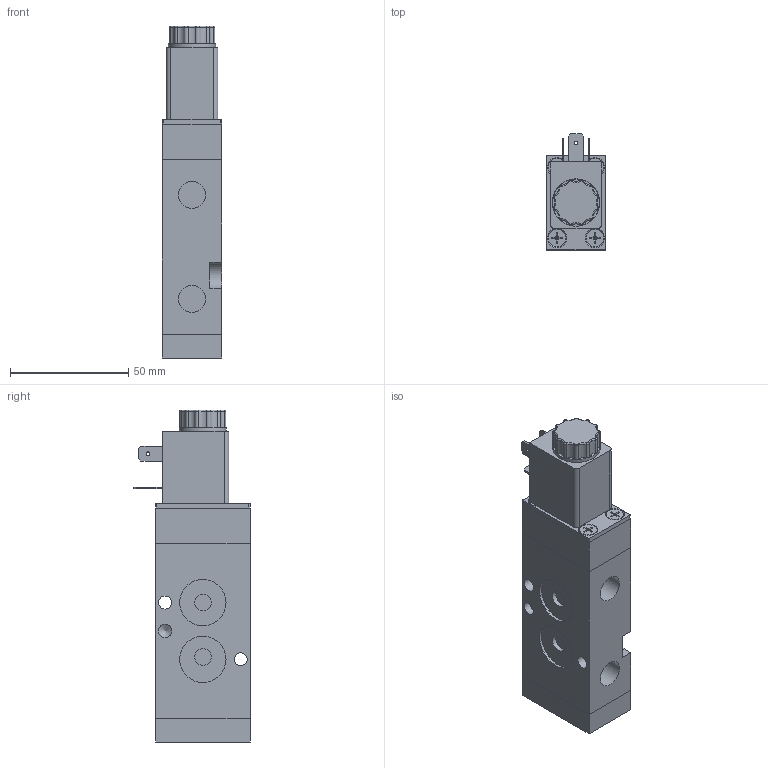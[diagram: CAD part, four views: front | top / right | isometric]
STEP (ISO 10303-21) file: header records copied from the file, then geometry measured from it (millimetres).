
FILE_DESCRIPTION (( 'STEP AP214' ), '1' );
FILE_NAME ('KNX-55-311-HN-F42_Airtec.step', '2020-06-19T14:49:29', ( '' ), ( '' ), 'SwSTEP 2.0', 'SolidWorks 2010', '' );
FILE_SCHEMA (( 'AUTOMOTIVE_DESIGN' ));
Length unit declared in the file: millimetre
Products named in the file (3): Volumenkörper6; Volumenkörper1-1; KNX-55-311-HN-F42_Airtec
Assembly tree (2 placements, depth 2):
  KNX-55-311-HN-F42_Airtec
    Volumenkörper1-1
    Volumenkörper6
Bounding box: 25 x 49.2 x 140.5 mm (x, y, z)
Volume: 116536.4 mm3; surface area: 26566.8 mm2
Topology: 2 solids, 2 shells, 625 faces, 1628 edges, 1054 vertices
Faces by surface type: plane 395, cylinder 101, cone 62, torus 53, bspline 14
Full cylindrical faces by diameter (mm): 1.5 x3, 2.459 x1, 3.571 x4, 4.5 x4, 5.1 x4, 5.5 x3, 7 x6, 7.5 x8, 8 x1, 8.15 x1, 9.04 x2, 9.1 x1, 11.445 x2, 15 x1, 16.6 x1, 19.6 x2, 20 x1
Entity records: 23508 total; most frequent: CARTESIAN_POINT 5435, ORIENTED_EDGE 3034, DIRECTION 2902, EDGE_CURVE 1517, VERTEX_POINT 1023, LINE 968, VECTOR 968, AXIS2_PLACEMENT_3D 967
